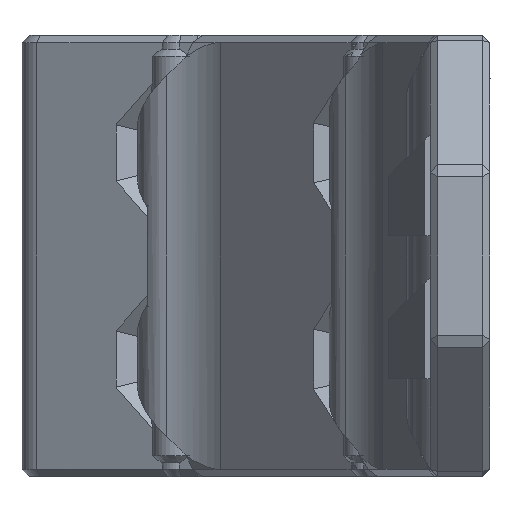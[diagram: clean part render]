
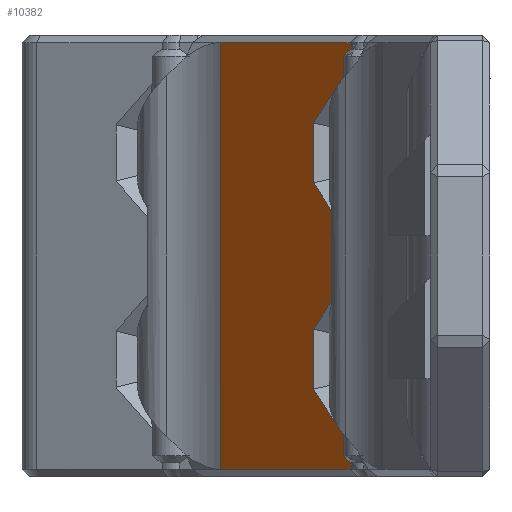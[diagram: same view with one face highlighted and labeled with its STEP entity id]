
A CAD part, left-side view. The second image highlights one B-rep face of the part: STEP entity #10382.
In plain terms, the highlighted planar face has unit normal (-0.643, 0.766, 0) as drawn and (0, 1, 0) by its records, which use the part's own axes.
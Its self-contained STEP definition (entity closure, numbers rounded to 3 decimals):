
#45=(
BOUNDED_CURVE()
B_SPLINE_CURVE(2,(#17687,#17688,#17689),.UNSPECIFIED.,.F.,.F.)
B_SPLINE_CURVE_WITH_KNOTS((3,3),(6.599,7.723),
 .UNSPECIFIED.)
CURVE()
GEOMETRIC_REPRESENTATION_ITEM()
RATIONAL_B_SPLINE_CURVE((11.662,11.047,9.913))
REPRESENTATION_ITEM('')
);
#48=(
BOUNDED_CURVE()
B_SPLINE_CURVE(2,(#17705,#17706,#17707,#17708),.UNSPECIFIED.,.F.,.F.)
B_SPLINE_CURVE_WITH_KNOTS((3,1,3),(2.81,2.93,3.934),
 .UNSPECIFIED.)
CURVE()
GEOMETRIC_REPRESENTATION_ITEM()
RATIONAL_B_SPLINE_CURVE((9.913,10.033,11.112,
11.662))
REPRESENTATION_ITEM('')
);
#1204=FACE_OUTER_BOUND('',#1800,.T.);
#1800=EDGE_LOOP('',(#9016,#9017,#9018,#9019,#9020,#9021,#9022,#9023,#9024,
#9025,#9026,#9027,#9028,#9029,#9030,#9031));
#2731=LINE('',#17659,#3784);
#2738=LINE('',#17733,#3791);
#2742=LINE('',#17741,#3795);
#2744=LINE('',#17746,#3797);
#2753=LINE('',#17772,#3806);
#2762=LINE('',#17803,#3815);
#2772=LINE('',#17835,#3825);
#2815=LINE('',#17961,#3868);
#2816=LINE('',#17963,#3869);
#2817=LINE('',#17965,#3870);
#2818=LINE('',#17966,#3871);
#2819=LINE('',#17968,#3872);
#2820=LINE('',#17970,#3873);
#2821=LINE('',#17971,#3874);
#3784=VECTOR('',#13141,1000.);
#3791=VECTOR('',#13176,1000.);
#3795=VECTOR('',#13182,1000.);
#3797=VECTOR('',#13186,1000.);
#3806=VECTOR('',#13213,1000.);
#3815=VECTOR('',#13244,1000.);
#3825=VECTOR('',#13278,1000.);
#3868=VECTOR('',#13397,1000.);
#3869=VECTOR('',#13398,1000.);
#3870=VECTOR('',#13399,1000.);
#3871=VECTOR('',#13400,1000.);
#3872=VECTOR('',#13401,1000.);
#3873=VECTOR('',#13402,1000.);
#3874=VECTOR('',#13403,1000.);
#4733=VERTEX_POINT('',#17543);
#4736=VERTEX_POINT('',#17552);
#4764=VERTEX_POINT('',#17658);
#4773=VERTEX_POINT('',#17686);
#4777=VERTEX_POINT('',#17702);
#4778=VERTEX_POINT('',#17704);
#4786=VERTEX_POINT('',#17736);
#4789=VERTEX_POINT('',#17744);
#4797=VERTEX_POINT('',#17771);
#4807=VERTEX_POINT('',#17800);
#4808=VERTEX_POINT('',#17802);
#4818=VERTEX_POINT('',#17833);
#4864=VERTEX_POINT('',#17962);
#4865=VERTEX_POINT('',#17964);
#4866=VERTEX_POINT('',#17967);
#4867=VERTEX_POINT('',#17969);
#6144=EDGE_CURVE('',#4736,#4764,#2731,.T.);
#6155=EDGE_CURVE('',#4764,#4773,#45,.T.);
#6161=EDGE_CURVE('',#4777,#4778,#48,.T.);
#6172=EDGE_CURVE('',#4778,#4733,#2738,.T.);
#6176=EDGE_CURVE('',#4786,#4733,#2742,.T.);
#6178=EDGE_CURVE('',#4736,#4789,#2744,.T.);
#6191=EDGE_CURVE('',#4773,#4797,#2753,.F.);
#6207=EDGE_CURVE('',#4807,#4808,#2762,.F.);
#6224=EDGE_CURVE('',#4818,#4777,#2772,.F.);
#6289=EDGE_CURVE('',#4789,#4786,#2815,.F.);
#6290=EDGE_CURVE('',#4818,#4864,#2816,.T.);
#6291=EDGE_CURVE('',#4864,#4865,#2817,.T.);
#6292=EDGE_CURVE('',#4865,#4808,#2818,.T.);
#6293=EDGE_CURVE('',#4807,#4866,#2819,.T.);
#6294=EDGE_CURVE('',#4866,#4867,#2820,.T.);
#6295=EDGE_CURVE('',#4867,#4797,#2821,.T.);
#9016=ORIENTED_EDGE('',*,*,#6178,.T.);
#9017=ORIENTED_EDGE('',*,*,#6289,.T.);
#9018=ORIENTED_EDGE('',*,*,#6176,.T.);
#9019=ORIENTED_EDGE('',*,*,#6172,.F.);
#9020=ORIENTED_EDGE('',*,*,#6161,.F.);
#9021=ORIENTED_EDGE('',*,*,#6224,.F.);
#9022=ORIENTED_EDGE('',*,*,#6290,.T.);
#9023=ORIENTED_EDGE('',*,*,#6291,.T.);
#9024=ORIENTED_EDGE('',*,*,#6292,.T.);
#9025=ORIENTED_EDGE('',*,*,#6207,.F.);
#9026=ORIENTED_EDGE('',*,*,#6293,.T.);
#9027=ORIENTED_EDGE('',*,*,#6294,.T.);
#9028=ORIENTED_EDGE('',*,*,#6295,.T.);
#9029=ORIENTED_EDGE('',*,*,#6191,.F.);
#9030=ORIENTED_EDGE('',*,*,#6155,.F.);
#9031=ORIENTED_EDGE('',*,*,#6144,.F.);
#9848=PLANE('',#11128);
#10382=ADVANCED_FACE('',(#1204),#9848,.F.);
#11128=AXIS2_PLACEMENT_3D('',#17960,#13395,#13396);
#13141=DIRECTION('',(0.,0.,-1.));
#13176=DIRECTION('',(0.,0.,-1.));
#13182=DIRECTION('',(-1.,0.,0.));
#13186=DIRECTION('',(1.,0.,0.));
#13213=DIRECTION('',(0.,0.,1.));
#13244=DIRECTION('',(0.,0.,1.));
#13278=DIRECTION('',(0.,0.,1.));
#13395=DIRECTION('center_axis',(0.,-1.,0.));
#13396=DIRECTION('ref_axis',(0.,0.,-1.));
#13397=DIRECTION('',(0.,0.,1.));
#13398=DIRECTION('',(0.707,0.,0.707));
#13399=DIRECTION('',(0.,0.,1.));
#13400=DIRECTION('',(-0.707,0.,0.707));
#13401=DIRECTION('',(0.707,0.,0.707));
#13402=DIRECTION('',(0.,0.,1.));
#13403=DIRECTION('',(-0.707,0.,0.707));
#17543=CARTESIAN_POINT('',(0.825,2.5,-17.9));
#17552=CARTESIAN_POINT('',(0.825,2.5,17.9));
#17658=CARTESIAN_POINT('',(0.825,2.5,17.35));
#17659=CARTESIAN_POINT('',(0.825,2.5,18.5));
#17686=CARTESIAN_POINT('',(1.789,2.5,16.75));
#17687=CARTESIAN_POINT('Ctrl Pts',(0.825,2.5,17.35));
#17688=CARTESIAN_POINT('Ctrl Pts',(1.238,2.5,17.161));
#17689=CARTESIAN_POINT('Ctrl Pts',(1.789,2.5,16.75));
#17702=CARTESIAN_POINT('',(1.789,2.5,-16.75));
#17704=CARTESIAN_POINT('',(0.825,2.5,-17.35));
#17705=CARTESIAN_POINT('Ctrl Pts',(1.789,2.5,-16.75));
#17706=CARTESIAN_POINT('Ctrl Pts',(1.724,2.5,-16.798));
#17707=CARTESIAN_POINT('Ctrl Pts',(1.192,2.5,-17.182));
#17708=CARTESIAN_POINT('Ctrl Pts',(0.825,2.5,-17.35));
#17733=CARTESIAN_POINT('',(0.825,2.5,18.5));
#17736=CARTESIAN_POINT('',(17.901,2.5,-17.9));
#17741=CARTESIAN_POINT('',(0.,2.5,-17.9));
#17744=CARTESIAN_POINT('',(17.901,2.5,17.9));
#17746=CARTESIAN_POINT('',(0.,2.5,17.9));
#17771=CARTESIAN_POINT('',(1.789,2.5,15.072));
#17772=CARTESIAN_POINT('',(1.789,2.5,3.95));
#17800=CARTESIAN_POINT('',(1.789,2.5,2.228));
#17802=CARTESIAN_POINT('',(1.789,2.5,-2.228));
#17803=CARTESIAN_POINT('',(1.789,2.5,13.35));
#17833=CARTESIAN_POINT('',(1.789,2.5,-15.072));
#17835=CARTESIAN_POINT('',(1.789,2.5,-3.95));
#17960=CARTESIAN_POINT('Origin',(0.,2.5,0.));
#17961=CARTESIAN_POINT('',(17.901,2.5,0.));
#17962=CARTESIAN_POINT('',(5.7,2.5,-11.161));
#17963=CARTESIAN_POINT('',(8.431,2.5,-8.431));
#17964=CARTESIAN_POINT('',(5.7,2.5,-6.139));
#17965=CARTESIAN_POINT('',(5.7,2.5,0.));
#17966=CARTESIAN_POINT('',(-0.219,2.5,-0.219));
#17967=CARTESIAN_POINT('',(5.7,2.5,6.139));
#17968=CARTESIAN_POINT('',(-0.219,2.5,0.219));
#17969=CARTESIAN_POINT('',(5.7,2.5,11.161));
#17970=CARTESIAN_POINT('',(5.7,2.5,0.));
#17971=CARTESIAN_POINT('',(8.431,2.5,8.431));
